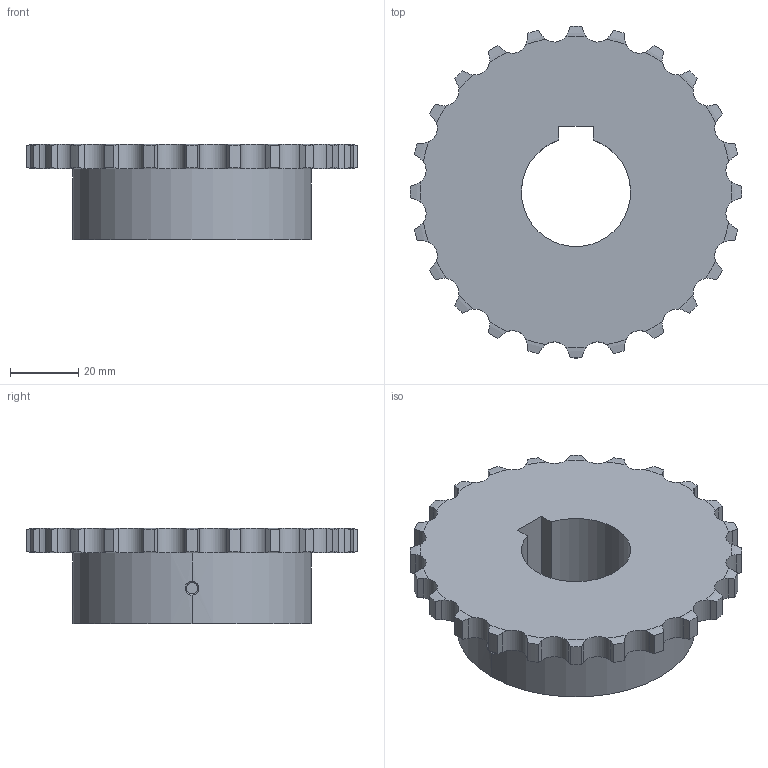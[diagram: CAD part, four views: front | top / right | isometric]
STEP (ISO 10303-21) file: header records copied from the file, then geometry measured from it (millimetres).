
FILE_DESCRIPTION((''),'2;1');
FILE_NAME('510-201-3224_PRT','2021-02-13T',('Brieden'),('Brieden'),'PRO/ENGINEER BY PARAMETRIC TECHNOLOGY CORPORATION, 2010160','PRO/ENGINEER BY PARAMETRIC TECHNOLOGY CORPORATION, 2010160','');
FILE_SCHEMA(('AUTOMOTIVE_DESIGN { 1 0 10303 214 1 1 1 1 }'));
Length unit declared in the file: millimetre
Products named in the file (1): 510-201-3224_PRT
Bounding box: 97.28 x 97.28 x 28 mm (x, y, z)
Volume: 104761.4 mm3; surface area: 22478.3 mm2
Topology: 1 solids, 1 shells, 165 faces, 477 edges, 316 vertices
Faces by surface type: cylinder 103, torus 48, plane 8, bspline 6
Entity records: 8002 total; most frequent: CARTESIAN_POINT 2427, ORIENTED_EDGE 954, DIRECTION 745, PRESENTATION_STYLE_ASSIGNMENT 478, STYLED_ITEM 478, CURVE_STYLE 477, EDGE_CURVE 477, VERTEX_POINT 316
